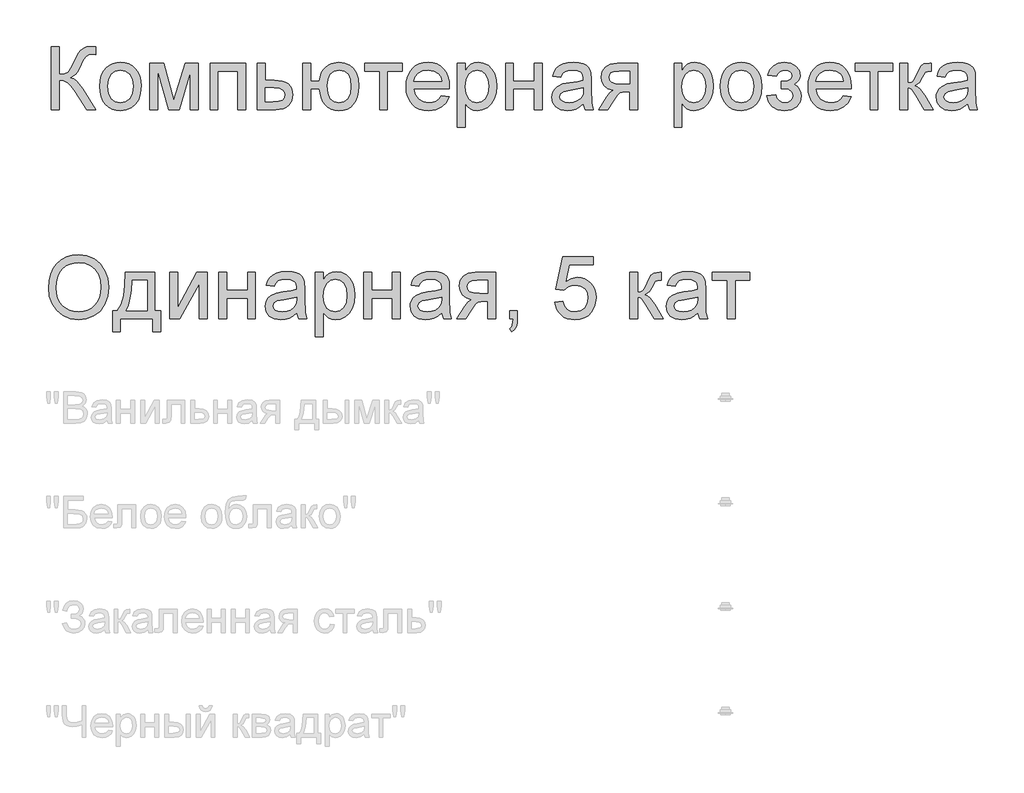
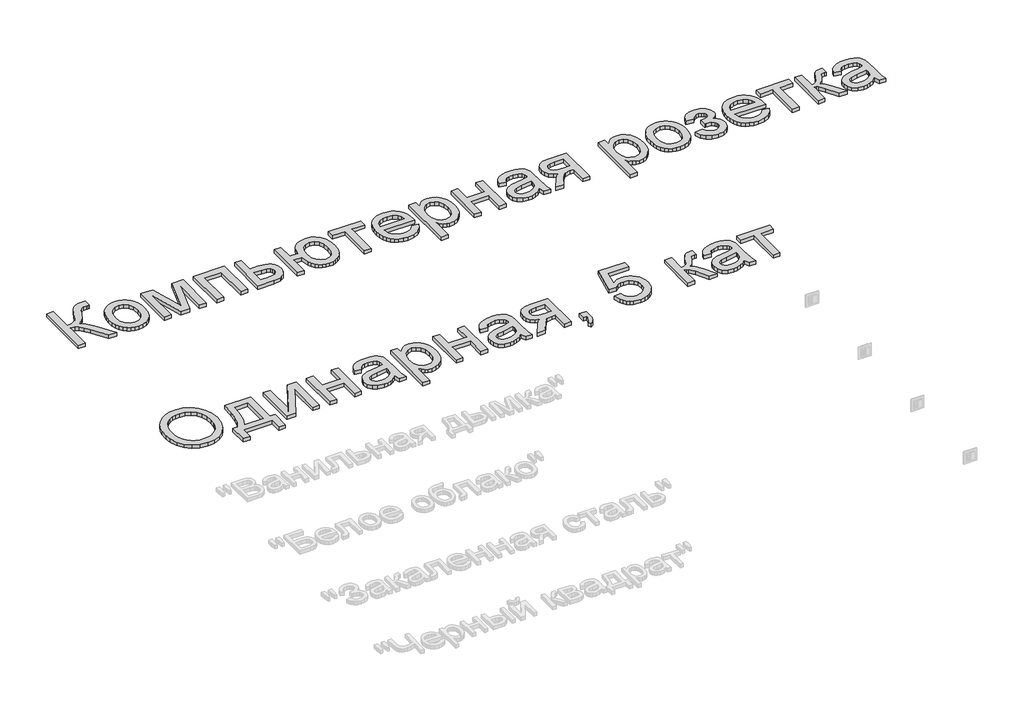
# One storey, part 167 of 168: 2 proxies.
"""IFC4 building model written with IfcOpenShell, lengths in millimetres."""

from ifc_helpers import new_model, si_unit, origin, origin_with_axes, place, context, project, spatial, polyline, outline, extrude, element, save

model = new_model("IFC4")

# Units and contexts
model_context = context("Model", 3, world=origin())
ifc_project = project(units=[si_unit("LENGTHUNIT", "METRE", prefix="MILLI")], contexts=[model_context])

# Site, building, storey
site = spatial("IfcSite", under=ifc_project)
building = spatial("IfcBuilding", under=site)
storey = spatial("IfcBuildingStorey", under=building, Name="Этаж 01", Elevation=0.0)

# Proxies
placement = place(None, origin())
element("IfcBuildingElementProxy", 1, Name="300 мм Arial 2", ObjectType="300 мм Arial 2", at=placement, inside=storey, context=model_context, shape_type="SweptSolid", body=[
    extrude(outline(polyline([(77299.0945017, -4747.0367511), (77336.765618, -4747.0367511), (77336.765618, -4878.8856582), (77362.2690373, -4876.3932577), (77378.8881064, -4868.9160561), (77392.3249963, -4851.3220997), (77408.2818778, -4818.4794346), (77429.0672106, -4776.3569461), (77439.0919949, -4764.9434072), (77452.6116582, -4755.498037), (77468.6605103, -4749.1520726), (77486.2728608, -4747.0367511), (77510.9945309, -4747.4782095), (77510.9945309, -4785.1493258), (77502.6803978, -4784.9285966), (77494.3662647, -4784.7078674), (77477.1125991, -4786.9703417), (77464.9357051, -4793.7577645), (77454.4510682, -4808.0131918), (77442.5684798, -4832.5325268), (77427.9911557, -4863.0667324), (77415.8970351, -4879.768575), (77389.8877781, -4895.3667716), (77404.4788977, -4901.5747802), (77418.9688498, -4912.399708), (77447.6452513, -4947.9003205), (77510.9945309, -5048.4056816), (77467.2901499, -5048.4056816), (77413.7265314, -4963.4985171), (77393.0423662, -4936.2660524), (77376.0186268, -4919.1687367), (77358.6086114, -4910.1464307), (77336.765618, -4907.1389954), (77336.765618, -5048.4056816), (77299.0945017, -5048.4056816), (77299.0945017, -4747.0367511)])), origin_with_axes(), (0.0, 0.0, 1.0), 20.0),
    extrude(outline(polyline([(77529.830089, -4937.7467774), (77531.8672356, -4909.0841715), (77537.9786752, -4884.385494), (77548.164408, -4863.6507451), (77562.4244338, -4846.8799246), (77576.7810287, -4836.160763), (77592.6275456, -4828.504219), (77609.9639846, -4823.9102925), (77628.7903457, -4822.3789837), (77649.5733792, -4824.2436856), (77668.3652514, -4829.8377912), (77685.1659622, -4839.1613005), (77699.9755118, -4852.2142135), (77712.0627346, -4868.5550719), (77720.6964652, -4887.7424172), (77725.8767035, -4909.7762495), (77727.6034496, -4934.6565687), (77724.5500291, -4972.7139611), (77715.3897674, -5001.6846682), (77700.389379, -5023.3805088), (77679.8155785, -5039.6133019), (77655.3790169, -5049.7392538), (77628.7903457, -5053.1145711), (77607.7038096, -5051.256767), (77588.7371935, -5045.6833548), (77571.8904974, -5036.3943344), (77557.1637213, -5023.3897059), (77545.2052572, -5006.8901984), (77536.6634971, -4987.1165412), (77531.538441, -4964.0687342), (77529.830089, -4937.7467774)]), holes=[polyline([(77567.5012053, -4937.673201), (77571.860607, -4971.7666649), (77584.9388119, -4996.0560737), (77604.6204987, -5010.5966095), (77628.7903457, -5015.4434548), (77652.8498282, -5010.5690184), (77672.4947268, -4995.9457091), (77685.5729317, -4971.3344036), (77689.9323333, -4936.4959786), (77685.5453405, -4903.3957961), (77672.3843622, -4879.4374812), (77652.7118725, -4864.8969453), (77628.7903457, -4860.0501), (77604.6204987, -4864.8785512), (77584.9388119, -4879.3639048), (77571.860607, -4903.5981312), (77567.5012053, -4937.673201)])]), origin_with_axes(), (0.0, 0.0, 1.0), 20.0),
    extrude(outline(polyline([(77769.9834555, -4827.0878733), (77834.804263, -4827.0878733), (77884.762638, -5004.2598421), (77938.6205621, -4827.0878733), (78000.7190429, -4827.0878733), (78000.7190429, -5048.4056816), (77963.0479266, -5048.4056816), (77963.0479266, -4870.2036431), (77908.8956969, -5048.4056816), (77859.4523567, -5048.4056816), (77807.6545718, -4861.6687808), (77807.6545718, -5048.4056816), (77769.9834555, -5048.4056816), (77769.9834555, -4827.0878733)])), origin_with_axes(), (0.0, 0.0, 1.0), 20.0),
    extrude(outline(polyline([(78057.2257173, -4827.0878733), (78226.7457407, -4827.0878733), (78226.7457407, -5048.4056816), (78189.0746244, -5048.4056816), (78189.0746244, -4864.7589896), (78094.8968336, -4864.7589896), (78094.8968336, -5048.4056816), (78057.2257173, -5048.4056816), (78057.2257173, -4827.0878733)])), origin_with_axes(), (0.0, 0.0, 1.0), 20.0),
    extrude(outline(polyline([(78283.2524152, -4827.0878733), (78320.9235315, -4827.0878733), (78320.9235315, -4907.1389954), (78364.3336069, -4907.1389954), (78401.967935, -4911.857082), (78417.1154761, -4917.7546902), (78429.816602, -4926.0113418), (78439.8597805, -4936.3419281), (78447.0334794, -4948.4613405), (78452.7724385, -4978.0666441), (78447.888805, -5005.0231973), (78433.2379046, -5027.7675016), (78422.0060074, -5036.7967054), (78407.8448499, -5043.2461366), (78370.7347536, -5048.4056816), (78283.2524152, -5048.4056816), (78283.2524152, -4827.0878733)]), holes=[polyline([(78320.9235315, -5010.7345653), (78356.0930502, -5010.7345653), (78383.3806972, -5008.7571995), (78401.5264766, -5002.8251024), (78411.7076108, -4992.6991504), (78415.1013222, -4978.1402205), (78412.5905276, -4965.8345678), (78405.0581438, -4954.9636548), (78388.9173212, -4947.3484975), (78360.5812105, -4944.8101117), (78320.9235315, -4944.8101117), (78320.9235315, -5010.7345653)])]), origin_with_axes(), (0.0, 0.0, 1.0), 20.0),
    extrude(outline(polyline([(78499.8613339, -4827.0878733), (78537.5324502, -4827.0878733), (78537.5324502, -4911.847885), (78579.9124561, -4911.847885), (78589.6889201, -4873.4410047), (78598.2122861, -4858.1003255), (78609.1590747, -4845.3348202), (78622.2211848, -4835.2916418), (78637.0905152, -4828.1179429), (78672.2508369, -4822.3789837), (78701.8009581, -4825.754301), (78724.3797156, -4835.880253), (78741.798928, -4851.929105), (78755.8704144, -4873.0731227), (78765.1686318, -4900.8850015), (78768.2680376, -4936.937437), (78766.6654517, -4963.7928227), (78761.8576938, -4987.1901176), (78753.8447641, -5007.1293217), (78742.6266625, -5023.6104351), (78728.6632416, -5036.5184946), (78712.4143537, -5045.7385371), (78693.8799989, -5051.2705626), (78673.0601772, -5053.1145711), (78653.6567013, -5051.3855257), (78636.2811748, -5046.1983896), (78620.9335978, -5037.5531627), (78607.6139703, -5025.4498451), (78596.6533861, -5010.3298951), (78588.382939, -4992.6347711), (78579.9124561, -4949.5190013), (78537.5324502, -4949.5190013), (78537.5324502, -5048.4056816), (78499.8613339, -5048.4056816), (78499.8613339, -4827.0878733)]), holes=[polyline([(78674.678858, -4860.0501), (78650.6653608, -4864.9245365), (78632.629946, -4879.5478458), (78621.3451658, -4902.9635348), (78617.5835724, -4934.2151103), (78621.3727569, -4970.6262307), (78632.7403106, -4995.8353445), (78650.4538286, -5010.5414272), (78673.2809064, -5015.4434548), (78696.1723636, -5010.9093092), (78714.5204781, -4997.3068724), (78726.5778105, -4973.6060749), (78730.5969213, -4938.776847), (78727.1204364, -4904.3338952), (78716.6909819, -4879.7317868), (78699.2349812, -4864.9705217), (78674.678858, -4860.0501)])]), origin_with_axes(), (0.0, 0.0, 1.0), 20.0),
    extrude(outline(polyline([(78796.5213748, -4827.0878733), (78975.4591773, -4827.0878733), (78975.4591773, -4864.7589896), (78904.8258342, -4864.7589896), (78904.8258342, -5048.4056816), (78867.1547179, -5048.4056816), (78867.1547179, -4864.7589896), (78796.5213748, -4864.7589896), (78796.5213748, -4827.0878733)])), origin_with_axes(), (0.0, 0.0, 1.0), 20.0),
    extrude(outline(polyline([(79163.3733004, -4982.481228), (79200.3086527, -4987.1901176), (79187.0005216, -5015.0203905), (79165.7645334, -5035.8241173), (79137.0789348, -5048.7919577), (79101.4219724, -5053.1145711), (79078.0476702, -5051.2498692), (79057.2209507, -5045.6557637), (79038.9418141, -5036.3322543), (79023.2102603, -5023.2793413), (79010.5597181, -5006.860308), (79001.5236166, -4987.4384379), (78996.1019557, -4965.0137311), (78994.2947354, -4939.5861874), (78996.1203498, -4913.2964203), (79001.597193, -4890.1244531), (79010.725265, -4870.0702859), (79023.5045658, -4853.1339185), (79039.1947329, -4839.6786346), (79057.0554038, -4830.0677174), (79077.0865784, -4824.3011672), (79099.2882569, -4822.3789837), (79120.7748646, -4824.2965686), (79140.2059318, -4830.0493233), (79157.5814583, -4839.6372478), (79172.9014441, -4853.0603421), (79185.4071327, -4869.9599213), (79194.3397674, -4889.9773003), (79199.6993482, -4913.1124793), (79201.4858751, -4939.3654582), (79201.2651459, -4949.5190013), (79031.9658517, -4949.5190013), (79038.4865601, -4977.7171562), (79053.6341013, -4998.4473066), (79075.4954888, -5011.1944178), (79102.1577364, -5015.4434548), (79122.2073052, -5013.4752861), (79139.0930887, -5007.5707801), (79152.8150872, -4997.3620547), (79163.3733004, -4982.481228)]), holes=[polyline([(79031.9658517, -4911.847885), (79163.8147588, -4911.847885), (79158.7195932, -4891.945469), (79148.731597, -4877.7084358), (79126.7690419, -4864.464684), (79099.1411041, -4860.0501), (79073.7480493, -4863.5725701), (79052.7511845, -4874.1399805), (79038.1554663, -4890.6118968), (79031.9658517, -4911.847885)])]), origin_with_axes(), (0.0, 0.0, 1.0), 20.0),
    extrude(outline(polyline([(79239.1569914, -5133.1656933), (79239.1569914, -4827.0878733), (79276.8281077, -4827.0878733), (79276.8281077, -4864.0232256), (79289.1153664, -4845.8038698), (79302.874153, -4832.7900442), (79318.913808, -4824.9817488), (79338.0436717, -4822.3789837), (79363.5194999, -4826.0210155), (79385.7947547, -4836.9471107), (79403.9313371, -4854.4950819), (79416.9911479, -4878.0027414), (79424.8822167, -4905.7594379), (79427.512573, -4936.0545202), (79424.5419258, -4968.271786), (79415.6299845, -4997.0861432), (79401.0618575, -5021.0352611), (79381.1226534, -5038.6568087), (79357.9001024, -5049.5001305), (79333.481935, -5053.1145711), (79316.1638901, -5050.695747), (79300.7036492, -5043.4392746), (79287.4690944, -5032.4855882), (79276.8281077, -5018.975122), (79276.8281077, -5133.1656933), (79239.1569914, -5133.1656933)]), holes=[polyline([(79276.8281077, -4939.512611), (79280.9024008, -4973.2841782), (79293.1252801, -4996.9022022), (79311.1606949, -5010.8081417), (79332.6725946, -5015.4434548), (79354.5339822, -5010.6425948), (79373.0292495, -4996.2400147), (79385.6384049, -4971.7574679), (79389.8414566, -4936.7167078), (79385.7395724, -4903.1290817), (79373.4339197, -4879.1799638), (79355.426096, -4864.832566), (79334.217699, -4860.0501), (79312.9265285, -4865.1360686), (79294.2289261, -4880.3939744), (79281.1783123, -4905.3455707), (79276.8281077, -4939.512611)])]), origin_with_axes(), (0.0, 0.0, 1.0), 20.0),
    extrude(outline(polyline([(79469.8925788, -4827.0878733), (79507.5636951, -4827.0878733), (79507.5636951, -4911.847885), (79606.4503754, -4911.847885), (79606.4503754, -4827.0878733), (79644.1214917, -4827.0878733), (79644.1214917, -5048.4056816), (79606.4503754, -5048.4056816), (79606.4503754, -4949.5190013), (79507.5636951, -4949.5190013), (79507.5636951, -5048.4056816), (79469.8925788, -5048.4056816), (79469.8925788, -4827.0878733)])), origin_with_axes(), (0.0, 0.0, 1.0), 20.0),
    extrude(outline(polyline([(79841.8948523, -5020.1523443), (79823.8962257, -5035.584994), (79805.3641702, -5045.6833548), (79785.8756215, -5051.256767), (79765.0075153, -5053.1145711), (79733.5260136, -5048.6448049), (79710.3034626, -5035.2355061), (79695.983656, -5014.8732377), (79691.2103871, -4989.5445623), (79693.0130089, -4973.9279716), (79698.4208742, -4959.7461207), (79706.7625984, -4947.6060149), (79717.366797, -4938.1146594), (79743.743936, -4925.7538244), (79776.3382808, -4920.0884417), (79814.8555257, -4914.1287533), (79841.6741231, -4907.1389954), (79841.8948523, -4898.7512859), (79839.3012843, -4881.9390788), (79831.5205801, -4870.9394071), (79814.1197617, -4862.7724268), (79789.8763382, -4860.0501), (79767.4355365, -4861.8619189), (79751.7637635, -4867.2973753), (79741.0767915, -4877.3497509), (79733.5903929, -4893.0123268), (79695.9192766, -4888.3034373), (79702.4583791, -4867.7020455), (79712.216449, -4851.5152378), (79726.1039943, -4839.1360086), (79745.031523, -4829.9573528), (79768.1804975, -4824.273576), (79794.7323805, -4822.3789837), (79820.1990117, -4824.0528468), (79840.3865361, -4829.074436), (79855.6076537, -4836.625214), (79866.175064, -4845.8866432), (79873.183216, -4857.3369703), (79877.7265587, -4871.4544419), (79879.5659686, -4904.4166687), (79879.5659686, -4951.2848348), (79881.478955, -5016.7310418), (79888.9837477, -5048.4056816), (79851.3126314, -5048.4056816), (79841.8948523, -5020.1523443)]), holes=[polyline([(79841.8948523, -4944.8101117), (79781.1207467, -4956.3616064), (79748.7103429, -4962.4684475), (79734.0318513, -4972.4012614), (79728.8815034, -4986.895812), (79731.6866036, -4998.0978187), (79740.1019043, -5007.2764745), (79753.9434643, -5013.4017097), (79773.0273428, -5015.4434548), (79793.2608526, -5013.1901776), (79811.1399175, -5006.4303459), (79825.6344681, -4996.4699409), (79835.7144348, -4984.6149436), (79840.184201, -4972.4012614), (79841.6741231, -4955.4786896), (79841.8948523, -4944.8101117)])]), origin_with_axes(), (0.0, 0.0, 1.0), 20.0),
    extrude(outline(polyline([(80100.8837769, -4827.0878733), (80100.8837769, -5048.4056816), (80063.2126606, -5048.4056816), (80063.2126606, -4963.6456699), (80042.6848453, -4963.6456699), (80014.7258137, -4968.4281358), (80003.5605951, -4978.8575904), (79988.4590392, -5000.5810222), (79958.4398684, -5048.4056816), (79914.8826402, -5048.4056816), (79952.7009093, -4987.9258816), (79969.4027518, -4966.2208438), (79984.7802192, -4956.5823356), (79959.0284796, -4948.6912668), (79940.9286854, -4933.7000755), (79930.2233194, -4913.7608713), (79926.654864, -4891.025764), (79931.5293004, -4865.2372362), (79946.1526098, -4844.8197854), (79970.0097571, -4831.5208513), (80002.5857078, -4827.0878733), (80100.8837769, -4827.0878733)]), holes=[polyline([(80063.2126606, -4864.7589896), (80013.5485913, -4864.7589896), (79987.8980192, -4866.9386904), (79973.3390892, -4873.4777929), (79966.5792575, -4882.9415572), (79964.3259803, -4893.8952436), (79967.6461153, -4908.2518385), (79977.6065203, -4918.2122435), (79996.0098171, -4924.033976), (80024.6586275, -4925.9745536), (80063.2126606, -4925.9745536), (80063.2126606, -4864.7589896)])]), origin_with_axes(), (0.0, 0.0, 1.0), 20.0),
    extrude(outline(polyline([(80275.1126898, -5133.1656933), (80275.1126898, -4827.0878733), (80312.7838061, -4827.0878733), (80312.7838061, -4864.0232256), (80325.0710648, -4845.8038698), (80338.8298514, -4832.7900442), (80354.8695064, -4824.9817488), (80373.9993701, -4822.3789837), (80399.4751983, -4826.0210155), (80421.7504531, -4836.9471107), (80439.8870355, -4854.4950819), (80452.9468463, -4878.0027414), (80460.8379151, -4905.7594379), (80463.4682714, -4936.0545202), (80460.4976243, -4968.271786), (80451.5856829, -4997.0861432), (80437.0175559, -5021.0352611), (80417.0783518, -5038.6568087), (80393.8558008, -5049.5001305), (80369.4376334, -5053.1145711), (80352.1195885, -5050.695747), (80336.6593476, -5043.4392746), (80323.4247929, -5032.4855882), (80312.7838061, -5018.975122), (80312.7838061, -5133.1656933), (80275.1126898, -5133.1656933)]), holes=[polyline([(80312.7838061, -4939.512611), (80316.8580992, -4973.2841782), (80329.0809785, -4996.9022022), (80347.1163933, -5010.8081417), (80368.628293, -5015.4434548), (80390.4896806, -5010.6425948), (80408.9849479, -4996.2400147), (80421.5941033, -4971.7574679), (80425.7971551, -4936.7167078), (80421.6952708, -4903.1290817), (80409.3896181, -4879.1799638), (80391.3817944, -4864.832566), (80370.1733974, -4860.0501), (80348.8822269, -4865.1360686), (80330.1846245, -4880.3939744), (80317.1340107, -4905.3455707), (80312.7838061, -4939.512611)])]), origin_with_axes(), (0.0, 0.0, 1.0), 20.0),
    extrude(outline(polyline([(80496.4304981, -4937.7467774), (80498.4676447, -4909.0841715), (80504.5790843, -4884.385494), (80514.7648171, -4863.6507451), (80529.0248429, -4846.8799246), (80543.3814378, -4836.160763), (80559.2279547, -4828.504219), (80576.5643937, -4823.9102925), (80595.3907548, -4822.3789837), (80616.1737883, -4824.2436856), (80634.9656605, -4829.8377912), (80651.7663713, -4839.1613005), (80666.5759209, -4852.2142135), (80678.6631437, -4868.5550719), (80687.2968743, -4887.7424172), (80692.4771126, -4909.7762495), (80694.2038587, -4934.6565687), (80691.1504382, -4972.7139611), (80681.9901765, -5001.6846682), (80666.9897882, -5023.3805088), (80646.4159876, -5039.6133019), (80621.979426, -5049.7392538), (80595.3907548, -5053.1145711), (80574.3042187, -5051.256767), (80555.3376026, -5045.6833548), (80538.4909065, -5036.3943344), (80523.7641304, -5023.3897059), (80511.8056663, -5006.8901984), (80503.2639062, -4987.1165412), (80498.1388502, -4964.0687342), (80496.4304981, -4937.7467774)]), holes=[polyline([(80534.1016144, -4937.673201), (80538.4610161, -4971.7666649), (80551.539221, -4996.0560737), (80571.2209078, -5010.5966095), (80595.3907548, -5015.4434548), (80619.4502373, -5010.5690184), (80639.0951359, -4995.9457091), (80652.1733408, -4971.3344036), (80656.5327424, -4936.4959786), (80652.1457496, -4903.3957961), (80638.9847713, -4879.4374812), (80619.3122816, -4864.8969453), (80595.3907548, -4860.0501), (80571.2209078, -4864.8785512), (80551.539221, -4879.3639048), (80538.4610161, -4903.5981312), (80534.1016144, -4937.673201)])]), origin_with_axes(), (0.0, 0.0, 1.0), 20.0),
    extrude(outline(polyline([(80788.3816495, -4949.5190013), (80788.3816495, -4911.847885), (80818.1065147, -4910.376357), (80833.1161001, -4902.5404705), (80838.4136009, -4895.1920276), (80840.1794344, -4886.1697217), (80837.8157926, -4875.4551586), (80830.7248672, -4867.1502225), (80819.8999394, -4861.8251307), (80806.3342909, -4860.0501), (80792.6214895, -4861.8159336), (80781.1343742, -4867.1134343), (80771.872945, -4875.9426022), (80764.8372018, -4888.3034373), (80722.457196, -4883.5945477), (80733.6959909, -4856.8127385), (80750.7841096, -4837.6828747), (80773.721552, -4826.2049565), (80802.5083181, -4822.3789837), (80833.9990169, -4827.041888), (80857.8377702, -4841.0306009), (80872.8473556, -4861.4940369), (80877.8505507, -4885.5811105), (80876.0709216, -4897.9419455), (80870.7320341, -4908.9784054), (80861.8338884, -4918.6904901), (80849.3764843, -4927.0781996), (80863.9170202, -4937.5444423), (80874.2820954, -4950.5490709), (80880.4901041, -4966.1288733), (80882.5594403, -4984.320638), (80877.3079248, -5012.0497434), (80861.5533784, -5034.0214956), (80836.3626587, -5048.3413022), (80802.8026237, -5053.1145711), (80769.9783527, -5048.6999872), (80744.8612095, -5035.4562353), (80727.4511941, -5013.3833156), (80717.7483064, -4982.481228), (80760.1283123, -4977.7723385), (80766.4742767, -4993.7016289), (80777.1244605, -5005.5842173), (80790.8464589, -5012.9786454), (80806.4078673, -5015.4434548), (80821.5646055, -5013.079813), (80833.9254405, -5005.9888875), (80842.1476031, -4995.2191421), (80844.888324, -4981.8190404), (80843.1868697, -4971.2056449), (80838.0825071, -4962.0269891), (80823.5879564, -4951.4319876), (80795.7392894, -4949.2982721), (80788.3816495, -4949.5190013)])), origin_with_axes(), (0.0, 0.0, 1.0), 20.0),
    extrude(outline(polyline([(81084.600232, -4982.481228), (81121.5355843, -4987.1901176), (81108.2274532, -5015.0203905), (81086.991465, -5035.8241173), (81058.3058664, -5048.7919577), (81022.648904, -5053.1145711), (80999.2746018, -5051.2498692), (80978.4478823, -5045.6557637), (80960.1687457, -5036.3322543), (80944.4371919, -5023.2793413), (80931.7866498, -5006.860308), (80922.7505482, -4987.4384379), (80917.3288873, -4965.0137311), (80915.521667, -4939.5861874), (80917.3472814, -4913.2964203), (80922.8241246, -4890.1244531), (80931.9521967, -4870.0702859), (80944.7314975, -4853.1339185), (80960.4216646, -4839.6786346), (80978.2823354, -4830.0677174), (80998.3135101, -4824.3011672), (81020.5151885, -4822.3789837), (81042.0017962, -4824.2965686), (81061.4328634, -4830.0493233), (81078.8083899, -4839.6372478), (81094.1283757, -4853.0603421), (81106.6340643, -4869.9599213), (81115.566699, -4889.9773003), (81120.9262798, -4913.1124793), (81122.7128067, -4939.3654582), (81122.4920775, -4949.5190013), (80953.1927833, -4949.5190013), (80959.7134917, -4977.7171562), (80974.8610329, -4998.4473066), (80996.7224204, -5011.1944178), (81023.384668, -5015.4434548), (81043.4342368, -5013.4752861), (81060.3200203, -5007.5707801), (81074.0420188, -4997.3620547), (81084.600232, -4982.481228)]), holes=[polyline([(80953.1927833, -4911.847885), (81085.0416904, -4911.847885), (81079.9465248, -4891.945469), (81069.9585286, -4877.7084358), (81047.9959735, -4864.464684), (81020.3680357, -4860.0501), (80994.974981, -4863.5725701), (80973.9781161, -4874.1399805), (80959.3823979, -4890.6118968), (80953.1927833, -4911.847885)])]), origin_with_axes(), (0.0, 0.0, 1.0), 20.0),
    extrude(outline(polyline([(81141.5483649, -4827.0878733), (81320.4861673, -4827.0878733), (81320.4861673, -4864.7589896), (81249.8528243, -4864.7589896), (81249.8528243, -5048.4056816), (81212.181708, -5048.4056816), (81212.181708, -4864.7589896), (81141.5483649, -4864.7589896), (81141.5483649, -4827.0878733)])), origin_with_axes(), (0.0, 0.0, 1.0), 20.0),
    extrude(outline(polyline([(81353.4483941, -4827.0878733), (81391.1195104, -4827.0878733), (81391.1195104, -4921.265664), (81406.4417955, -4919.5734069), (81416.3562153, -4914.4966353), (81425.1302009, -4901.2528835), (81437.0311834, -4875.0596854), (81454.2112726, -4841.0306009), (81469.3680108, -4829.9573528), (81496.9223722, -4827.0878733), (81504.1328593, -4827.0878733), (81504.1328593, -4864.9797188), (81493.9793163, -4864.7589896), (81475.5852165, -4868.7321151), (81462.6357703, -4893.5273616), (81447.4422439, -4920.345959), (81426.1418763, -4933.4793463), (81438.0796471, -4938.7814455), (81449.9070532, -4948.1394438), (81473.2307717, -4979.0231373), (81513.5506384, -5048.4056816), (81470.7291742, -5048.4056816), (81431.2186479, -4980.4946653), (81411.3530201, -4951.7630814), (81402.0639998, -4946.5483542), (81391.1195104, -4944.8101117), (81391.1195104, -5048.4056816), (81353.4483941, -5048.4056816), (81353.4483941, -4827.0878733)])), origin_with_axes(), (0.0, 0.0, 1.0), 20.0),
    extrude(outline(polyline([(81678.3617722, -5020.1523443), (81660.3631456, -5035.584994), (81641.8310901, -5045.6833548), (81622.3425414, -5051.256767), (81601.4744353, -5053.1145711), (81569.9929335, -5048.6448049), (81546.7703826, -5035.2355061), (81532.4505759, -5014.8732377), (81527.677307, -4989.5445623), (81529.4799288, -4973.9279716), (81534.8877941, -4959.7461207), (81543.2295184, -4947.6060149), (81553.8337169, -4938.1146594), (81580.2108559, -4925.7538244), (81612.8052007, -4920.0884417), (81651.3224456, -4914.1287533), (81678.141043, -4907.1389954), (81678.3617722, -4898.7512859), (81675.7682042, -4881.9390788), (81667.9875, -4870.9394071), (81650.5866816, -4862.7724268), (81626.3432581, -4860.0501), (81603.9024564, -4861.8619189), (81588.2306834, -4867.2973753), (81577.5437115, -4877.3497509), (81570.0573129, -4893.0123268), (81532.3861966, -4888.3034373), (81538.925299, -4867.7020455), (81548.6833689, -4851.5152378), (81562.5709143, -4839.1360086), (81581.4984429, -4829.9573528), (81604.6474175, -4824.273576), (81631.1993005, -4822.3789837), (81656.6659316, -4824.0528468), (81676.8534561, -4829.074436), (81692.0745736, -4836.625214), (81702.6419839, -4845.8866432), (81709.6501359, -4857.3369703), (81714.1934786, -4871.4544419), (81716.0328885, -4904.4166687), (81716.0328885, -4951.2848348), (81717.9458749, -5016.7310418), (81725.4506676, -5048.4056816), (81687.7795513, -5048.4056816), (81678.3617722, -5020.1523443)]), holes=[polyline([(81678.3617722, -4944.8101117), (81617.5876666, -4956.3616064), (81585.1772629, -4962.4684475), (81570.4987713, -4972.4012614), (81565.3484233, -4986.895812), (81568.1535235, -4998.0978187), (81576.5688242, -5007.2764745), (81590.4103842, -5013.4017097), (81609.4942627, -5015.4434548), (81629.7277725, -5013.1901776), (81647.6068374, -5006.4303459), (81662.1013881, -4996.4699409), (81672.1813547, -4984.6149436), (81676.651121, -4972.4012614), (81678.141043, -4955.4786896), (81678.3617722, -4944.8101117)])]), origin_with_axes(), (0.0, 0.0, 1.0), 20.0),
])
element("IfcBuildingElementProxy", 2, Name="300 мм Arial 2", ObjectType="300 мм Arial 2", at=placement, inside=storey, context=model_context, shape_type="SweptSolid", body=[
    extrude(outline(polyline([(77284.967833, -5901.6943419), (77287.4786277, -5866.3454807), (77295.0110115, -5835.0525185), (77307.5649846, -5807.8154552), (77325.1405469, -5784.634291), (77346.6846363, -5766.1252281), (77371.1441904, -5752.9044689), (77398.5192094, -5744.9720134), (77428.8096932, -5742.3278616), (77468.3386135, -5747.2942685), (77503.7840438, -5762.1934893), (77533.2146034, -5785.9770603), (77554.6989119, -5817.5965178), (77567.8322991, -5855.5251515), (77572.2100949, -5898.2362511), (77567.6023729, -5941.5175679), (77553.7792069, -5979.9796305), (77531.5039521, -6011.6542703), (77501.5399636, -6034.5733186), (77466.398036, -6048.479258), (77428.588964, -6053.1145711), (77388.4530383, -6047.9918143), (77352.805273, -6032.623544), (77323.4482897, -6008.3985146), (77302.1847104, -5976.7054807), (77289.2720524, -5940.2391779), (77284.967833, -5901.6943419)]), holes=[polyline([(77322.6389493, -5902.0622239), (77324.5220453, -5927.0368128), (77330.1713332, -5949.2063016), (77339.586813, -5968.5706901), (77352.7684848, -5985.1299784), (77368.7920449, -5998.3921243), (77386.73319, -6007.8650857), (77406.5919199, -6013.5488625), (77428.3682348, -6015.4434548), (77450.5170301, -6013.5304684), (77470.6102849, -6007.7915093), (77488.6479989, -5998.2265774), (77504.6301724, -5984.8356728), (77517.7152751, -5967.9268966), (77527.061777, -5947.80835), (77532.6696782, -5924.480033), (77534.5389786, -5897.9419455), (77531.3384052, -5864.5934427), (77521.7366851, -5835.7698884), (77505.9821387, -5812.1978495), (77484.3230862, -5794.6038931), (77458.1942675, -5783.6502067), (77429.0304224, -5779.9989779), (77408.0105649, -5781.7579137), (77388.5082206, -5787.034721), (77370.5233895, -5795.8294), (77354.0560717, -5808.1419505), (77340.3110807, -5824.5655823), (77330.4932299, -5845.6935052), (77324.6025195, -5871.525719), (77322.6389493, -5902.0622239)])]), origin_with_axes(), (0.0, 0.0, 1.0), 20.0),
    extrude(outline(polyline([(77652.261217, -5827.0878733), (77793.5279032, -5827.0878733), (77793.5279032, -6010.7345653), (77821.7812404, -6010.7345653), (77821.7812404, -6109.6212456), (77784.1101241, -6109.6212456), (77784.1101241, -6048.4056816), (77628.7167693, -6048.4056816), (77628.7167693, -6109.6212456), (77591.045653, -6109.6212456), (77591.045653, -6010.7345653), (77614.5901007, -6010.7345653), (77631.7058105, -5979.8048865), (77643.6895665, -5938.8872116), (77650.5413687, -5887.9815405), (77652.261217, -5827.0878733)]), holes=[polyline([(77685.2234438, -5864.7589896), (77682.133235, -5910.8821947), (77676.3942759, -5950.5858591), (77668.0065664, -5983.8699826), (77656.9701066, -6010.7345653), (77755.8567869, -6010.7345653), (77755.8567869, -5864.7589896), (77685.2234438, -5864.7589896)])]), origin_with_axes(), (0.0, 0.0, 1.0), 20.0),
    extrude(outline(polyline([(77864.1612462, -5827.0878733), (77901.8323626, -5827.0878733), (77901.8323626, -5995.8721327), (77994.3914725, -5827.0878733), (78043.0990487, -5827.0878733), (78043.0990487, -6048.4056816), (78005.4279324, -6048.4056816), (78005.4279324, -5880.6514918), (77913.4574336, -6048.4056816), (77864.1612462, -6048.4056816), (77864.1612462, -5827.0878733)])), origin_with_axes(), (0.0, 0.0, 1.0), 20.0),
    extrude(outline(polyline([(78099.6057232, -5827.0878733), (78137.2768395, -5827.0878733), (78137.2768395, -5911.847885), (78236.1635198, -5911.847885), (78236.1635198, -5827.0878733), (78273.8346361, -5827.0878733), (78273.8346361, -6048.4056816), (78236.1635198, -6048.4056816), (78236.1635198, -5949.5190013), (78137.2768395, -5949.5190013), (78137.2768395, -6048.4056816), (78099.6057232, -6048.4056816), (78099.6057232, -5827.0878733)])), origin_with_axes(), (0.0, 0.0, 1.0), 20.0),
    extrude(outline(polyline([(78471.6079967, -6020.1523443), (78453.6093701, -6035.584994), (78435.0773146, -6045.6833548), (78415.5887659, -6051.256767), (78394.7206597, -6053.1145711), (78363.239158, -6048.6448049), (78340.016607, -6035.2355061), (78325.6968003, -6014.8732377), (78320.9235315, -5989.5445623), (78322.7261532, -5973.9279716), (78328.1340186, -5959.7461207), (78336.4757428, -5947.6060149), (78347.0799413, -5938.1146594), (78373.4570804, -5925.7538244), (78406.0514251, -5920.0884417), (78444.56867, -5914.1287533), (78471.3872675, -5907.1389954), (78471.6079967, -5898.7512859), (78469.0144286, -5881.9390788), (78461.2337244, -5870.9394071), (78443.832906, -5862.7724268), (78419.5894826, -5860.0501), (78397.1486809, -5861.8619189), (78381.4769079, -5867.2973753), (78370.7899359, -5877.3497509), (78363.3035373, -5893.0123268), (78325.632421, -5888.3034373), (78332.1715235, -5867.7020455), (78341.9295934, -5851.5152378), (78355.8171387, -5839.1360086), (78374.7446674, -5829.9573528), (78397.8936419, -5824.273576), (78424.4455249, -5822.3789837), (78449.912156, -5824.0528468), (78470.0996805, -5829.074436), (78485.3207981, -5836.625214), (78495.8882084, -5845.8866432), (78502.8963604, -5857.3369703), (78507.439703, -5871.4544419), (78509.279113, -5904.4166687), (78509.279113, -5951.2848348), (78511.1920994, -6016.7310418), (78518.6968921, -6048.4056816), (78481.0257758, -6048.4056816), (78471.6079967, -6020.1523443)]), holes=[polyline([(78471.6079967, -5944.8101117), (78410.8338911, -5956.3616064), (78378.4234873, -5962.4684475), (78363.7449957, -5972.4012614), (78358.5946478, -5986.895812), (78361.399748, -5998.0978187), (78369.8150486, -6007.2764745), (78383.6566087, -6013.4017097), (78402.7404872, -6015.4434548), (78422.9739969, -6013.1901776), (78440.8530619, -6006.4303459), (78455.3476125, -5996.4699409), (78465.4275792, -5984.6149436), (78469.8973454, -5972.4012614), (78471.3872675, -5955.4786896), (78471.6079967, -5944.8101117)])]), origin_with_axes(), (0.0, 0.0, 1.0), 20.0),
    extrude(outline(polyline([(78561.0768979, -6133.1656933), (78561.0768979, -5827.0878733), (78598.7480142, -5827.0878733), (78598.7480142, -5864.0232256), (78611.0352729, -5845.8038698), (78624.7940595, -5832.7900442), (78640.8337145, -5824.9817488), (78659.9635782, -5822.3789837), (78685.4394064, -5826.0210155), (78707.7146612, -5836.9471107), (78725.8512436, -5854.4950819), (78738.9110544, -5878.0027414), (78746.8021232, -5905.7594379), (78749.4324794, -5936.0545202), (78746.4618323, -5968.271786), (78737.549891, -5997.0861432), (78722.981764, -6021.0352611), (78703.0425599, -6038.6568087), (78679.8200089, -6049.5001305), (78655.4018415, -6053.1145711), (78638.0837966, -6050.695747), (78622.6235557, -6043.4392746), (78609.3890009, -6032.4855882), (78598.7480142, -6018.975122), (78598.7480142, -6133.1656933), (78561.0768979, -6133.1656933)]), holes=[polyline([(78598.7480142, -5939.512611), (78602.8223073, -5973.2841782), (78615.0451866, -5996.9022022), (78633.0806014, -6010.8081417), (78654.5925011, -6015.4434548), (78676.4538886, -6010.6425948), (78694.949156, -5996.2400147), (78707.5583113, -5971.7574679), (78711.7613631, -5936.7167078), (78707.6594789, -5903.1290817), (78695.3538262, -5879.1799638), (78677.3460025, -5864.832566), (78656.1376055, -5860.0501), (78634.846435, -5865.1360686), (78616.1488326, -5880.3939744), (78603.0982188, -5905.3455707), (78598.7480142, -5939.512611)])]), origin_with_axes(), (0.0, 0.0, 1.0), 20.0),
    extrude(outline(polyline([(78791.8124853, -5827.0878733), (78829.4836016, -5827.0878733), (78829.4836016, -5911.847885), (78928.3702819, -5911.847885), (78928.3702819, -5827.0878733), (78966.0413982, -5827.0878733), (78966.0413982, -6048.4056816), (78928.3702819, -6048.4056816), (78928.3702819, -5949.5190013), (78829.4836016, -5949.5190013), (78829.4836016, -6048.4056816), (78791.8124853, -6048.4056816), (78791.8124853, -5827.0878733)])), origin_with_axes(), (0.0, 0.0, 1.0), 20.0),
    extrude(outline(polyline([(79163.8147588, -6020.1523443), (79145.8161322, -6035.584994), (79127.2840767, -6045.6833548), (79107.795528, -6051.256767), (79086.9274218, -6053.1145711), (79055.4459201, -6048.6448049), (79032.2233691, -6035.2355061), (79017.9035625, -6014.8732377), (79013.1302936, -5989.5445623), (79014.9329154, -5973.9279716), (79020.3407807, -5959.7461207), (79028.6825049, -5947.6060149), (79039.2867034, -5938.1146594), (79065.6638425, -5925.7538244), (79098.2581873, -5920.0884417), (79136.7754322, -5914.1287533), (79163.5940296, -5907.1389954), (79163.8147588, -5898.7512859), (79161.2211907, -5881.9390788), (79153.4404865, -5870.9394071), (79136.0396682, -5862.7724268), (79111.7962447, -5860.0501), (79089.355443, -5861.8619189), (79073.68367, -5867.2973753), (79062.996698, -5877.3497509), (79055.5102994, -5893.0123268), (79017.8391831, -5888.3034373), (79024.3782856, -5867.7020455), (79034.1363555, -5851.5152378), (79048.0239008, -5839.1360086), (79066.9514295, -5829.9573528), (79090.100404, -5824.273576), (79116.652287, -5822.3789837), (79142.1189181, -5824.0528468), (79162.3064426, -5829.074436), (79177.5275602, -5836.625214), (79188.0949705, -5845.8866432), (79195.1031225, -5857.3369703), (79199.6464651, -5871.4544419), (79201.4858751, -5904.4166687), (79201.4858751, -5951.2848348), (79203.3988615, -6016.7310418), (79210.9036542, -6048.4056816), (79173.2325379, -6048.4056816), (79163.8147588, -6020.1523443)]), holes=[polyline([(79163.8147588, -5944.8101117), (79103.0406532, -5956.3616064), (79070.6302494, -5962.4684475), (79055.9517578, -5972.4012614), (79050.8014099, -5986.895812), (79053.6065101, -5998.0978187), (79062.0218107, -6007.2764745), (79075.8633708, -6013.4017097), (79094.9472493, -6015.4434548), (79115.180759, -6013.1901776), (79133.059824, -6006.4303459), (79147.5543746, -5996.4699409), (79157.6343413, -5984.6149436), (79162.1041075, -5972.4012614), (79163.5940296, -5955.4786896), (79163.8147588, -5944.8101117)])]), origin_with_axes(), (0.0, 0.0, 1.0), 20.0),
    extrude(outline(polyline([(79422.8036834, -5827.0878733), (79422.8036834, -6048.4056816), (79385.1325671, -6048.4056816), (79385.1325671, -5963.6456699), (79364.6047518, -5963.6456699), (79336.6457201, -5968.4281358), (79325.4805016, -5978.8575904), (79310.3789457, -6000.5810222), (79280.3597749, -6048.4056816), (79236.8025467, -6048.4056816), (79274.6208158, -5987.9258816), (79291.3226583, -5966.2208438), (79306.7001257, -5956.5823356), (79280.9483861, -5948.6912668), (79262.8485919, -5933.7000755), (79252.1432259, -5913.7608713), (79248.5747705, -5891.025764), (79253.4492069, -5865.2372362), (79268.0725162, -5844.8197854), (79291.9296636, -5831.5208513), (79324.5056143, -5827.0878733), (79422.8036834, -5827.0878733)]), holes=[polyline([(79385.1325671, -5864.7589896), (79335.4684978, -5864.7589896), (79309.8179256, -5866.9386904), (79295.2589957, -5873.4777929), (79288.499164, -5882.9415572), (79286.2458868, -5893.8952436), (79289.5660218, -5908.2518385), (79299.5264268, -5918.2122435), (79317.9297236, -5924.033976), (79346.578534, -5925.9745536), (79385.1325671, -5925.9745536), (79385.1325671, -5864.7589896)])]), origin_with_axes(), (0.0, 0.0, 1.0), 20.0),
    extrude(outline(polyline([(79488.728137, -6048.4056816), (79488.728137, -6010.7345653), (79526.3992533, -6010.7345653), (79526.3992533, -6048.4056816), (79524.7069961, -6069.9543694), (79519.6302245, -6086.9229265), (79510.8746331, -6099.936752), (79498.145916, -6109.6212456), (79488.728137, -6095.494577), (79496.8951172, -6088.6703659), (79502.5605, -6079.2341928), (79507.4901187, -6048.4056816), (79488.728137, -6048.4056816)])), origin_with_axes(), (0.0, 0.0, 1.0), 20.0),
    extrude(outline(polyline([(79705.3370557, -5968.3545594), (79743.008172, -5963.6456699), (79749.9243535, -5986.2612155), (79761.990883, -6002.4572204), (79779.152578, -6012.1968962), (79801.3542565, -6015.4434548), (79828.3567949, -6010.9277033), (79848.5903046, -5997.3804488), (79861.2270512, -5976.3651899), (79865.4393, -5949.4454249), (79861.4937656, -5924.0983554), (79849.6571624, -5904.7109743), (79829.8375199, -5892.4053215), (79801.9428676, -5888.3034373), (79783.6683295, -5889.9405121), (79768.8702763, -5894.8517368), (79747.7170616, -5911.847885), (79710.0459452, -5907.1389954), (79743.008172, -5751.7456407), (79888.9837477, -5751.7456407), (79888.9837477, -5789.416757), (79773.4688012, -5789.416757), (79757.3555698, -5872.4109351), (79784.2661378, -5856.0769745), (79812.4642927, -5850.632321), (79830.810108, -5852.3199796), (79847.6614026, -5857.3829556), (79863.0181766, -5865.8212488), (79876.8804301, -5877.6348594), (79888.356049, -5892.1018189), (79896.5529198, -5908.5001588), (79901.4710422, -5926.8298792), (79903.1104163, -5947.0909801), (79897.2059103, -5984.7620964), (79889.8252778, -6001.5559095), (79879.4923922, -6016.9885592), (79863.8390133, -6032.7936894), (79845.5736723, -6044.0830681), (79824.696369, -6050.8566954), (79801.2071037, -6053.1145711), (79764.207372, -6047.3112326), (79748.5287012, -6040.0570595), (79734.7308271, -6029.9012172), (79723.2506096, -6017.3495434), (79714.5249085, -6002.9078758), (79705.3370557, -5968.3545594)])), origin_with_axes(), (0.0, 0.0, 1.0), 20.0),
    extrude(outline(polyline([(80063.2126606, -5827.0878733), (80100.8837769, -5827.0878733), (80100.8837769, -5921.265664), (80116.206062, -5919.5734069), (80126.1204818, -5914.4966353), (80134.8944674, -5901.2528835), (80146.7954499, -5875.0596854), (80163.9755391, -5841.0306009), (80179.1322773, -5829.9573528), (80206.6866387, -5827.0878733), (80213.8971258, -5827.0878733), (80213.8971258, -5864.9797188), (80203.7435828, -5864.7589896), (80185.349483, -5868.7321151), (80172.4000368, -5893.5273616), (80157.2065104, -5920.345959), (80135.9061429, -5933.4793463), (80147.8439136, -5938.7814455), (80159.6713198, -5948.1394438), (80182.9950382, -5979.0231373), (80223.3149049, -6048.4056816), (80180.4934407, -6048.4056816), (80140.9829144, -5980.4946653), (80121.1172867, -5951.7630814), (80111.8282663, -5946.5483542), (80100.8837769, -5944.8101117), (80100.8837769, -6048.4056816), (80063.2126606, -6048.4056816), (80063.2126606, -5827.0878733)])), origin_with_axes(), (0.0, 0.0, 1.0), 20.0),
    extrude(outline(polyline([(80388.1260388, -6020.1523443), (80370.1274121, -6035.584994), (80351.5953566, -6045.6833548), (80332.1068079, -6051.256767), (80311.2387018, -6053.1145711), (80279.7572, -6048.6448049), (80256.5346491, -6035.2355061), (80242.2148424, -6014.8732377), (80237.4415735, -5989.5445623), (80239.2441953, -5973.9279716), (80244.6520606, -5959.7461207), (80252.9937849, -5947.6060149), (80263.5979834, -5938.1146594), (80289.9751224, -5925.7538244), (80322.5694672, -5920.0884417), (80361.0867121, -5914.1287533), (80387.9053096, -5907.1389954), (80388.1260388, -5898.7512859), (80385.5324707, -5881.9390788), (80377.7517665, -5870.9394071), (80360.3509481, -5862.7724268), (80336.1075246, -5860.0501), (80313.6667229, -5861.8619189), (80297.9949499, -5867.2973753), (80287.307978, -5877.3497509), (80279.8215794, -5893.0123268), (80242.1504631, -5888.3034373), (80248.6895655, -5867.7020455), (80258.4476355, -5851.5152378), (80272.3351808, -5839.1360086), (80291.2627094, -5829.9573528), (80314.411684, -5824.273576), (80340.963567, -5822.3789837), (80366.4301981, -5824.0528468), (80386.6177226, -5829.074436), (80401.8388401, -5836.625214), (80412.4062504, -5845.8866432), (80419.4144024, -5857.3369703), (80423.9577451, -5871.4544419), (80425.7971551, -5904.4166687), (80425.7971551, -5951.2848348), (80427.7101414, -6016.7310418), (80435.2149341, -6048.4056816), (80397.5438178, -6048.4056816), (80388.1260388, -6020.1523443)]), holes=[polyline([(80388.1260388, -5944.8101117), (80327.3519332, -5956.3616064), (80294.9415294, -5962.4684475), (80280.2630378, -5972.4012614), (80275.1126898, -5986.895812), (80277.9177901, -5998.0978187), (80286.3330907, -6007.2764745), (80300.1746508, -6013.4017097), (80319.2585293, -6015.4434548), (80339.492039, -6013.1901776), (80357.371104, -6006.4303459), (80371.8656546, -5996.4699409), (80381.9456212, -5984.6149436), (80386.4153875, -5972.4012614), (80387.9053096, -5955.4786896), (80388.1260388, -5944.8101117)])]), origin_with_axes(), (0.0, 0.0, 1.0), 20.0),
    extrude(outline(polyline([(80458.7593818, -5827.0878733), (80637.6971843, -5827.0878733), (80637.6971843, -5864.7589896), (80567.0638412, -5864.7589896), (80567.0638412, -6048.4056816), (80529.3927249, -6048.4056816), (80529.3927249, -5864.7589896), (80458.7593818, -5864.7589896), (80458.7593818, -5827.0878733)])), origin_with_axes(), (0.0, 0.0, 1.0), 20.0),
])

save(model, "model.ifc")
